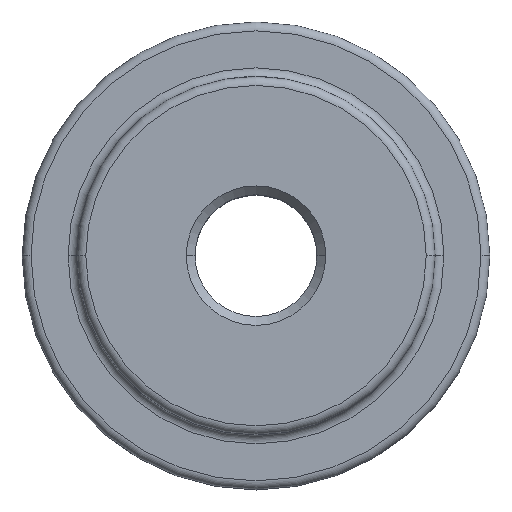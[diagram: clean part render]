
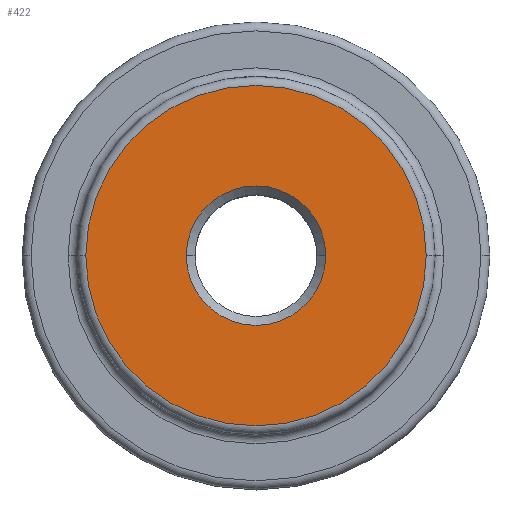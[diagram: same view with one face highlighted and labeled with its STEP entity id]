
A CAD part, top view. The second image highlights one B-rep face of the part: STEP entity #422.
In plain terms, the highlighted planar face has unit normal (0, 0, 1).
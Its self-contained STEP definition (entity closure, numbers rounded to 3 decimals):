
#102 = EDGE_CURVE ( 'NONE', #622, #516, #1061, .T. ) ;
#109 = DIRECTION ( 'NONE',  ( 0., 0., -1. ) ) ;
#127 = EDGE_LOOP ( 'NONE', ( #805, #344 ) ) ;
#182 = ORIENTED_EDGE ( 'NONE', *, *, #753, .T. ) ;
#201 = DIRECTION ( 'NONE',  ( -1., 0., 0. ) ) ;
#233 = DIRECTION ( 'NONE',  ( -1., 0., 0. ) ) ;
#259 = AXIS2_PLACEMENT_3D ( 'NONE', #807, #109, #729 ) ;
#261 = CARTESIAN_POINT ( 'NONE',  ( 4.01, 0., 15.9 ) ) ;
#287 = CARTESIAN_POINT ( 'NONE',  ( 9.79, 0., 15.9 ) ) ;
#297 = CIRCLE ( 'NONE', #1003, 9.79 ) ;
#334 = FACE_OUTER_BOUND ( 'NONE', #127, .T. ) ;
#344 = ORIENTED_EDGE ( 'NONE', *, *, #999, .T. ) ;
#379 = CARTESIAN_POINT ( 'NONE',  ( 0., 10.3, 15.9 ) ) ;
#381 = DIRECTION ( 'NONE',  ( 0., 0., 1. ) ) ;
#382 = VERTEX_POINT ( 'NONE', #1056 ) ;
#391 = EDGE_LOOP ( 'NONE', ( #687, #182 ) ) ;
#422 = ADVANCED_FACE ( 'NONE', ( #984, #334 ), #906, .F. ) ;
#446 = EDGE_CURVE ( 'NONE', #382, #744, #297, .T. ) ;
#455 = CARTESIAN_POINT ( 'NONE',  ( -4.01, 0., 15.9 ) ) ;
#469 = CARTESIAN_POINT ( 'NONE',  ( 0., 0., 15.9 ) ) ;
#516 = VERTEX_POINT ( 'NONE', #455 ) ;
#521 = CARTESIAN_POINT ( 'NONE',  ( 0., 0., 15.9 ) ) ;
#622 = VERTEX_POINT ( 'NONE', #261 ) ;
#687 = ORIENTED_EDGE ( 'NONE', *, *, #102, .T. ) ;
#723 = DIRECTION ( 'NONE',  ( 0., 0., -1. ) ) ;
#729 = DIRECTION ( 'NONE',  ( -1., 0., 0. ) ) ;
#744 = VERTEX_POINT ( 'NONE', #287 ) ;
#752 = CARTESIAN_POINT ( 'NONE',  ( 0., 0., 15.9 ) ) ;
#753 = EDGE_CURVE ( 'NONE', #516, #622, #919, .T. ) ;
#805 = ORIENTED_EDGE ( 'NONE', *, *, #446, .T. ) ;
#807 = CARTESIAN_POINT ( 'NONE',  ( 0., 0., 15.9 ) ) ;
#850 = DIRECTION ( 'NONE',  ( 0., 0., 1. ) ) ;
#855 = DIRECTION ( 'NONE',  ( -1., 0., 0. ) ) ;
#866 = AXIS2_PLACEMENT_3D ( 'NONE', #379, #723, #201 ) ;
#906 = PLANE ( 'NONE',  #866 ) ;
#919 = CIRCLE ( 'NONE', #259, 4.01 ) ;
#942 = AXIS2_PLACEMENT_3D ( 'NONE', #521, #1106, #855 ) ;
#975 = DIRECTION ( 'NONE',  ( -1., 0., 0. ) ) ;
#984 = FACE_BOUND ( 'NONE', #391, .T. ) ;
#999 = EDGE_CURVE ( 'NONE', #744, #382, #1004, .T. ) ;
#1003 = AXIS2_PLACEMENT_3D ( 'NONE', #469, #381, #975 ) ;
#1004 = CIRCLE ( 'NONE', #1031, 9.79 ) ;
#1031 = AXIS2_PLACEMENT_3D ( 'NONE', #752, #850, #233 ) ;
#1056 = CARTESIAN_POINT ( 'NONE',  ( -9.79, 0., 15.9 ) ) ;
#1061 = CIRCLE ( 'NONE', #942, 4.01 ) ;
#1106 = DIRECTION ( 'NONE',  ( 0., 0., -1. ) ) ;
